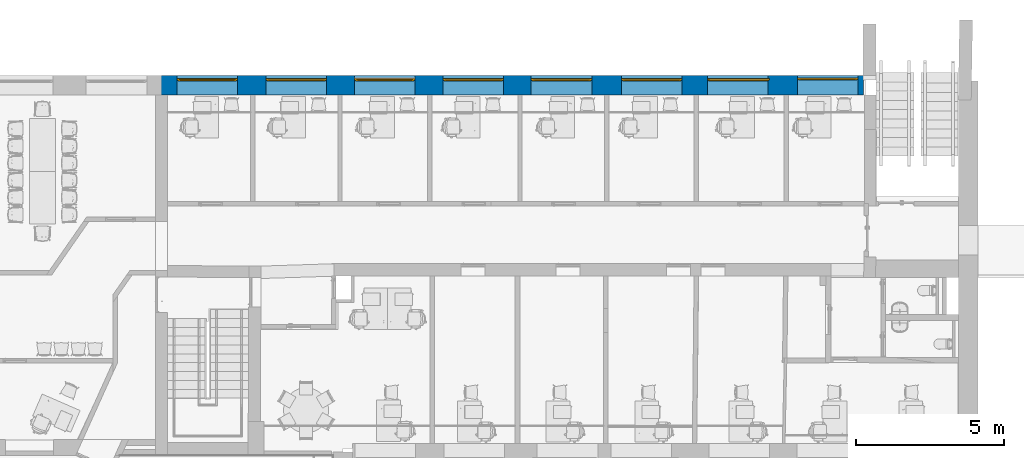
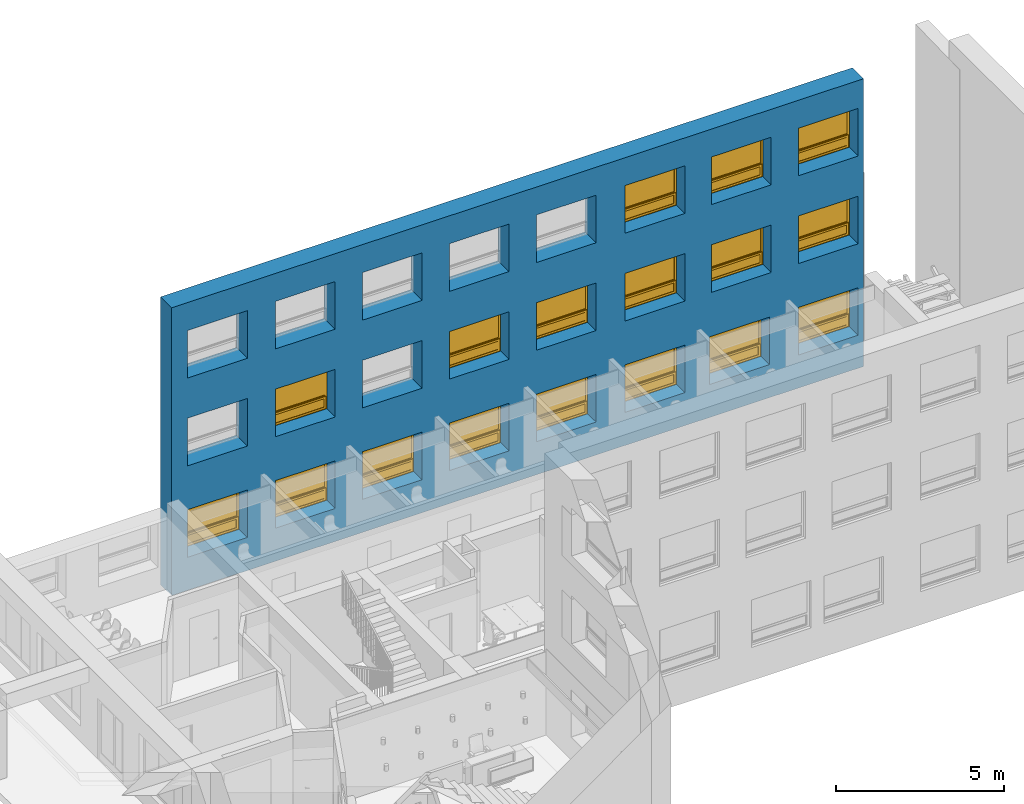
"""IFC2X3 building model written with IfcOpenShell, lengths in millimetres."""

from ifc_helpers import new_model, entity, si_unit, converted_unit, derived_unit, direction, frame, frame_2d, origin, place, context, subcontext, project, spatial, rectangle, extrude, faceted_brep, source, transform, mapped, material, material_list, layer, layer_set, layer_usage, type_object, type_shapes, element, fill, save


model = new_model("IFC2X3")

# Units and contexts
model_context = context("Model", 3, precision=0.01, world=origin(), true_north=direction((6.12303176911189e-17, 1.0)))
context_of_model = context(None, 3, precision=0.01, world=origin(), true_north=direction((6.12303176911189e-17, 1.0)))
body_context = subcontext(model_context, "Body", "Model", "MODEL_VIEW")
ifc_project = project(units=[si_unit("LENGTHUNIT", "METRE", prefix="MILLI"), si_unit("AREAUNIT", "SQUARE_METRE"), si_unit("VOLUMEUNIT", "CUBIC_METRE"), converted_unit("PLANEANGLEUNIT", "DEGREE", entity("IfcRatioMeasure", 0.0174532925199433), si_unit("PLANEANGLEUNIT", "RADIAN"), dimensions=[0, 0, 0, 0, 0, 0, 0]), si_unit("MASSUNIT", "GRAM", prefix="KILO"), derived_unit("MASSDENSITYUNIT", [(si_unit("MASSUNIT", "GRAM", prefix="KILO"), 1), (si_unit("LENGTHUNIT", "METRE"), -3)]), si_unit("TIMEUNIT", "SECOND"), si_unit("FREQUENCYUNIT", "HERTZ"), si_unit("THERMODYNAMICTEMPERATUREUNIT", "DEGREE_CELSIUS"), derived_unit("THERMALTRANSMITTANCEUNIT", [(si_unit("MASSUNIT", "GRAM", prefix="KILO"), 1), (si_unit("THERMODYNAMICTEMPERATUREUNIT", "KELVIN"), -1), (si_unit("TIMEUNIT", "SECOND"), -3)]), derived_unit("VOLUMETRICFLOWRATEUNIT", [(si_unit("LENGTHUNIT", "METRE"), 3), (si_unit("TIMEUNIT", "SECOND"), -1)]), si_unit("ELECTRICCURRENTUNIT", "AMPERE"), si_unit("ELECTRICVOLTAGEUNIT", "VOLT"), si_unit("POWERUNIT", "WATT"), si_unit("FORCEUNIT", "NEWTON", prefix="KILO"), si_unit("ILLUMINANCEUNIT", "LUX"), si_unit("LUMINOUSFLUXUNIT", "LUMEN"), si_unit("LUMINOUSINTENSITYUNIT", "CANDELA"), derived_unit("USERDEFINED", [(si_unit("MASSUNIT", "GRAM", prefix="KILO"), -1), (si_unit("LENGTHUNIT", "METRE"), -2), (si_unit("TIMEUNIT", "SECOND"), 3), (si_unit("LUMINOUSFLUXUNIT", "LUMEN"), 1)]), derived_unit("LINEARVELOCITYUNIT", [(si_unit("LENGTHUNIT", "METRE"), 1), (si_unit("TIMEUNIT", "SECOND"), -1)]), si_unit("PRESSUREUNIT", "PASCAL"), derived_unit("USERDEFINED", [(si_unit("LENGTHUNIT", "METRE"), -2), (si_unit("MASSUNIT", "GRAM", prefix="KILO"), 1), (si_unit("TIMEUNIT", "SECOND"), -2)])], contexts=[model_context, context_of_model])

# Site, building, storey
site_placement = place(None, frame((121442.264707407, 135347.995453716, -1800.0)))
site = spatial("IfcSite", under=ifc_project, at=site_placement, Name="Surface", CompositionType="ELEMENT")
building_placement = place(site_placement, origin())
building = spatial("IfcBuilding", under=site, at=building_placement, CompositionType="ELEMENT")
storey_1_placement = place(building_placement, frame((0.0, 0.0, 1800.0)))
storey_1 = spatial("IfcBuildingStorey", under=building, at=storey_1_placement, Name="1 korrus", CompositionType="ELEMENT", Elevation=1800.00000000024)

# Wall, openings, window
ifc_material_1 = material(Name="Plaster")
ifc_layer_1 = layer(ifc_material_1, 10.0)
ifc_material_2 = material(Name="Polystyrene")
ifc_layer_2 = layer(ifc_material_2, 150.0)
ifc_material_3 = material(Name="__Betoonelement")
ifc_layer_3 = layer(ifc_material_3, 500.0)
ifc_layer_set = layer_set([ifc_layer_1, ifc_layer_2, ifc_layer_3], Name="Basic Wall:Olemasolev Soojustatud Välissein")
ifc_layer_usage = layer_usage(ifc_layer_set, "AXIS2", "POSITIVE", -330.0)
wall_type = type_object("IfcWallType", Name="Basic Wall:Olemasolev Soojustatud Välissein", PredefinedType="STANDARD", material=ifc_layer_set)
wall_placement = place(storey_1_placement, frame((-85315.1914993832, -115011.919112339, -300.0), z_axis=(0.0, 0.0, 1.0), x_axis=(-1.0, 0.0, 0.0)))
wall = element("IfcWallStandardCase", 1, at=wall_placement, inside=storey_1, type_object=wall_type, material=ifc_layer_usage, Name="Basic Wall:Olemasolev Soojustatud Välissein", ObjectType="Basic Wall:Olemasolev Soojustatud Välissein", context=body_context, shape_type="SweptSolid", body=[
    extrude(rectangle(XDim=23782.0031187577, YDim=660.000000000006, at=frame_2d((12319.7873212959, -8.66862137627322e-12), x_axis=(-1.0, 0.0))), origin(), (0.0, 0.0, 1.0), 10460.0),
])
opening_1_placement = place(wall_placement, origin())
element("IfcOpeningElement", 2, at=opening_1_placement, cuts=wall, Name="Basic Wall:Olemasolev Soojustatud Välissein", ObjectType="Opening", context=body_context, shape_type="SweptSolid", body=[
    extrude(rectangle(XDim=1600.0, YDim=2050.0, at=frame_2d((-8.64019966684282e-12, 2.27373675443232e-13), x_axis=(0.0, 1.0))), frame((25702.8256414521, -1184.0, 2000.0), z_axis=(0.0, 1.0, 0.0), x_axis=(-1.0, 0.0, 0.0)), (0.0, 0.0, 1.0), 3048.0),
])
opening_2_placement = place(wall_placement, frame((23657.8256414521, 330.0, 1200.0)))
opening_2 = element("IfcOpeningElement", 3, at=opening_2_placement, cuts=wall, Name="sma_W2:A-1* 2050 x 1730mm Avatav:1", ObjectType="Opening", context=body_context, shape_type="SweptSolid", body=[
    extrude(rectangle(XDim=1730.0, YDim=2050.0, at=frame_2d((865.0, 1025.0), x_axis=(1.0, 0.0))), frame((0.0, 0.0, 0.0), z_axis=(0.0, -1.0, 0.0), x_axis=(0.0, 0.0, 1.0)), (0.0, 0.0, 1.0), 660.0),
])
opening_3_placement = place(wall_placement, frame((17649.9096963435, 330.0, 1200.0)))
opening_3 = element("IfcOpeningElement", 4, at=opening_3_placement, cuts=wall, Name="sma_W2:A-1* 2050 x 1730mm Avatav:1", ObjectType="Opening", context=body_context, shape_type="SweptSolid", body=[
    extrude(rectangle(XDim=1730.0, YDim=2050.0, at=frame_2d((865.0, 1025.0), x_axis=(1.0, 0.0))), frame((0.0, 0.0, 0.0), z_axis=(0.0, -1.0, 0.0), x_axis=(0.0, 0.0, 1.0)), (0.0, 0.0, 1.0), 660.0),
])
opening_4_placement = place(wall_placement, frame((20639.9096963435, 330.0, 1200.0)))
opening_4 = element("IfcOpeningElement", 5, at=opening_4_placement, cuts=wall, Name="sma_W2:A-1* 2050 x 1730mm Avatav:1", ObjectType="Opening", context=body_context, shape_type="SweptSolid", body=[
    extrude(rectangle(XDim=1730.0, YDim=2050.0, at=frame_2d((865.0, 1025.0), x_axis=(1.0, 0.0))), frame((0.0, 0.0, 0.0), z_axis=(0.0, -1.0, 0.0), x_axis=(0.0, 0.0, 1.0)), (0.0, 0.0, 1.0), 660.0),
])
opening_5_placement = place(wall_placement, frame((2659.90969634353, 330.0, 1200.0)))
opening_5 = element("IfcOpeningElement", 6, at=opening_5_placement, cuts=wall, Name="sma_W2:A-1* 2050 x 1730mm Avatav:1", ObjectType="Opening", context=body_context, shape_type="SweptSolid", body=[
    extrude(rectangle(XDim=1730.0, YDim=2050.0, at=frame_2d((865.0, 1025.0), x_axis=(1.0, 0.0))), frame((0.0, 0.0, 0.0), z_axis=(0.0, -1.0, 0.0), x_axis=(0.0, 0.0, 1.0)), (0.0, 0.0, 1.0), 660.0),
])
opening_6_placement = place(wall_placement, frame((5712.82564145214, 330.0, 1200.0)))
opening_6 = element("IfcOpeningElement", 7, at=opening_6_placement, cuts=wall, Name="sma_W2:A-1* 2050 x 1730mm Avatav:1", ObjectType="Opening", context=body_context, shape_type="SweptSolid", body=[
    extrude(rectangle(XDim=1730.0, YDim=2050.0, at=frame_2d((865.0, 1025.0), x_axis=(1.0, 0.0))), frame((0.0, 0.0, 0.0), z_axis=(0.0, -1.0, 0.0), x_axis=(0.0, 0.0, 1.0)), (0.0, 0.0, 1.0), 660.0),
])
opening_7_placement = place(wall_placement, frame((8619.90969634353, 330.0, 1200.0)))
opening_7 = element("IfcOpeningElement", 8, at=opening_7_placement, cuts=wall, Name="sma_W2:A-1* 2050 x 1730mm Avatav:1", ObjectType="Opening", context=body_context, shape_type="SweptSolid", body=[
    extrude(rectangle(XDim=1730.0, YDim=2050.0, at=frame_2d((865.0, 1025.0), x_axis=(1.0, 0.0))), frame((0.0, 0.0, 0.0), z_axis=(0.0, -1.0, 0.0), x_axis=(0.0, 0.0, 1.0)), (0.0, 0.0, 1.0), 660.0),
])
opening_8_placement = place(wall_placement, frame((11669.9096963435, 330.0, 1200.0)))
opening_8 = element("IfcOpeningElement", 9, at=opening_8_placement, cuts=wall, Name="sma_W2:A-1* 2050 x 1730mm Avatav:1", ObjectType="Opening", context=body_context, shape_type="SweptSolid", body=[
    extrude(rectangle(XDim=1730.0, YDim=2050.0, at=frame_2d((865.0, 1025.0), x_axis=(1.0, 0.0))), frame((0.0, 0.0, 0.0), z_axis=(0.0, -1.0, 0.0), x_axis=(0.0, 0.0, 1.0)), (0.0, 0.0, 1.0), 660.0),
])
opening_9_placement = place(wall_placement, frame((14659.9096963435, 330.0, 1200.0)))
opening_9 = element("IfcOpeningElement", 10, at=opening_9_placement, cuts=wall, Name="sma_W2:A-1* 2050 x 1730mm Avatav:1", ObjectType="Opening", context=body_context, shape_type="SweptSolid", body=[
    extrude(rectangle(XDim=1730.0, YDim=2050.0, at=frame_2d((865.0, 1025.0), x_axis=(1.0, 0.0))), frame((0.0, 0.0, 0.0), z_axis=(0.0, -1.0, 0.0), x_axis=(0.0, 0.0, 1.0)), (0.0, 0.0, 1.0), 660.0),
])
opening_10_placement = place(wall_placement, frame((2659.90969634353, 330.0, 4525.0)))
opening_10 = element("IfcOpeningElement", 11, at=opening_10_placement, cuts=wall, Name="sma_W2:A-1* 2050 x 1730mm Avatav:1", ObjectType="Opening", context=body_context, shape_type="SweptSolid", body=[
    extrude(rectangle(XDim=1730.0, YDim=2050.0, at=frame_2d((865.0, 1025.0), x_axis=(1.0, 0.0))), frame((0.0, 0.0, 0.0), z_axis=(0.0, -1.0, 0.0), x_axis=(0.0, 0.0, 1.0)), (0.0, 0.0, 1.0), 660.0),
])
opening_11_placement = place(wall_placement, frame((5649.90969634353, 330.0, 4525.0)))
opening_11 = element("IfcOpeningElement", 12, at=opening_11_placement, cuts=wall, Name="sma_W2:A-1* 2050 x 1730mm Avatav:1", ObjectType="Opening", context=body_context, shape_type="SweptSolid", body=[
    extrude(rectangle(XDim=1730.0, YDim=2050.0, at=frame_2d((865.0, 1025.0), x_axis=(1.0, 0.0))), frame((0.0, 0.0, 0.0), z_axis=(0.0, -1.0, 0.0), x_axis=(0.0, 0.0, 1.0)), (0.0, 0.0, 1.0), 660.0),
])
opening_12_placement = place(wall_placement, frame((8619.90969634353, 330.0, 4525.0)))
opening_12 = element("IfcOpeningElement", 13, at=opening_12_placement, cuts=wall, Name="sma_W2:A-1* 2050 x 1730mm Avatav:1", ObjectType="Opening", context=body_context, shape_type="SweptSolid", body=[
    extrude(rectangle(XDim=1730.0, YDim=2050.0, at=frame_2d((865.0, 1025.0), x_axis=(1.0, 0.0))), frame((0.0, 0.0, 0.0), z_axis=(0.0, -1.0, 0.0), x_axis=(0.0, 0.0, 1.0)), (0.0, 0.0, 1.0), 660.0),
])
opening_13_placement = place(wall_placement, frame((11669.9096963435, 330.0, 4525.0)))
opening_13 = element("IfcOpeningElement", 14, at=opening_13_placement, cuts=wall, Name="sma_W2:A-1* 2050 x 1730mm Avatav:1", ObjectType="Opening", context=body_context, shape_type="SweptSolid", body=[
    extrude(rectangle(XDim=1730.0, YDim=2050.0, at=frame_2d((865.0, 1025.0), x_axis=(1.0, 0.0))), frame((0.0, 0.0, 0.0), z_axis=(0.0, -1.0, 0.0), x_axis=(0.0, 0.0, 1.0)), (0.0, 0.0, 1.0), 660.0),
])
opening_14_placement = place(wall_placement, frame((14659.9096963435, 330.0, 4525.0)))
opening_14 = element("IfcOpeningElement", 15, at=opening_14_placement, cuts=wall, Name="sma_W2:A-1* 2050 x 1730mm Avatav:1", ObjectType="Opening", context=body_context, shape_type="SweptSolid", body=[
    extrude(rectangle(XDim=1730.0, YDim=2050.0, at=frame_2d((865.0, 1025.0), x_axis=(1.0, 0.0))), frame((0.0, 0.0, 0.0), z_axis=(0.0, -1.0, 0.0), x_axis=(0.0, 0.0, 1.0)), (0.0, 0.0, 1.0), 660.0),
])
opening_15_placement = place(wall_placement, frame((17649.9096963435, 330.0, 4525.0)))
element("IfcOpeningElement", 16, at=opening_15_placement, cuts=wall, Name="sma_W2:A-1* 2050 x 1730mm Avatav:1", ObjectType="Opening", context=body_context, shape_type="SweptSolid", body=[
    extrude(rectangle(XDim=1730.0, YDim=2050.0, at=frame_2d((865.0, 1025.0), x_axis=(1.0, 0.0))), frame((0.0, 0.0, 0.0), z_axis=(0.0, -1.0, 0.0), x_axis=(0.0, 0.0, 1.0)), (0.0, 0.0, 1.0), 660.0),
])
opening_16_placement = place(wall_placement, frame((20639.9096963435, 330.0, 4525.0)))
opening_16 = element("IfcOpeningElement", 17, at=opening_16_placement, cuts=wall, Name="sma_W2:A-1* 2050 x 1730mm Avatav:1", ObjectType="Opening", context=body_context, shape_type="SweptSolid", body=[
    extrude(rectangle(XDim=1730.0, YDim=2050.0, at=frame_2d((865.0, 1025.0), x_axis=(1.0, 0.0))), frame((0.0, 0.0, 0.0), z_axis=(0.0, -1.0, 0.0), x_axis=(0.0, 0.0, 1.0)), (0.0, 0.0, 1.0), 660.0),
])
opening_17_placement = place(wall_placement, frame((2659.90969634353, 330.0, 7715.0)))
opening_17 = element("IfcOpeningElement", 18, at=opening_17_placement, cuts=wall, Name="sma_W2:A-1* 2050 x 1730mm Avatav:1", ObjectType="Opening", context=body_context, shape_type="SweptSolid", body=[
    extrude(rectangle(XDim=1730.0, YDim=2050.0, at=frame_2d((865.0, 1025.0), x_axis=(1.0, 0.0))), frame((0.0, 0.0, 0.0), z_axis=(0.0, -1.0, 0.0), x_axis=(0.0, 0.0, 1.0)), (0.0, 0.0, 1.0), 660.0),
])
opening_18_placement = place(wall_placement, frame((5649.90969634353, 330.0, 7715.0)))
opening_18 = element("IfcOpeningElement", 19, at=opening_18_placement, cuts=wall, Name="sma_W2:A-1* 2050 x 1730mm Avatav:1", ObjectType="Opening", context=body_context, shape_type="SweptSolid", body=[
    extrude(rectangle(XDim=1730.0, YDim=2050.0, at=frame_2d((865.0, 1025.0), x_axis=(1.0, 0.0))), frame((0.0, 0.0, 0.0), z_axis=(0.0, -1.0, 0.0), x_axis=(0.0, 0.0, 1.0)), (0.0, 0.0, 1.0), 660.0),
])
opening_19_placement = place(wall_placement, frame((8619.90969634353, 330.0, 7715.0)))
opening_19 = element("IfcOpeningElement", 20, at=opening_19_placement, cuts=wall, Name="sma_W2:A-1* 2050 x 1730mm Avatav:1", ObjectType="Opening", context=body_context, shape_type="SweptSolid", body=[
    extrude(rectangle(XDim=1730.0, YDim=2050.0, at=frame_2d((865.0, 1025.0), x_axis=(1.0, 0.0))), frame((0.0, 0.0, 0.0), z_axis=(0.0, -1.0, 0.0), x_axis=(0.0, 0.0, 1.0)), (0.0, 0.0, 1.0), 660.0),
])
opening_20_placement = place(wall_placement, frame((11669.9096963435, 330.0, 7715.0)))
element("IfcOpeningElement", 21, at=opening_20_placement, cuts=wall, Name="sma_W2:A-1* 2050 x 1730mm Avatav:1", ObjectType="Opening", context=body_context, shape_type="SweptSolid", body=[
    extrude(rectangle(XDim=1730.0, YDim=2050.0, at=frame_2d((865.0, 1025.0), x_axis=(1.0, 0.0))), frame((0.0, 0.0, 0.0), z_axis=(0.0, -1.0, 0.0), x_axis=(0.0, 0.0, 1.0)), (0.0, 0.0, 1.0), 660.0),
])
opening_21_placement = place(wall_placement, frame((14659.9096963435, 330.0, 7715.0)))
element("IfcOpeningElement", 22, at=opening_21_placement, cuts=wall, Name="sma_W2:A-1* 2050 x 1730mm Avatav:1", ObjectType="Opening", context=body_context, shape_type="SweptSolid", body=[
    extrude(rectangle(XDim=1730.0, YDim=2050.0, at=frame_2d((865.0, 1025.0), x_axis=(1.0, 0.0))), frame((0.0, 0.0, 0.0), z_axis=(0.0, -1.0, 0.0), x_axis=(0.0, 0.0, 1.0)), (0.0, 0.0, 1.0), 660.0),
])
opening_22_placement = place(wall_placement, frame((17649.9096963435, 330.0, 7715.0)))
element("IfcOpeningElement", 23, at=opening_22_placement, cuts=wall, Name="sma_W2:A-1* 2050 x 1730mm Avatav:1", ObjectType="Opening", context=body_context, shape_type="SweptSolid", body=[
    extrude(rectangle(XDim=1730.0, YDim=2050.0, at=frame_2d((865.0, 1025.0), x_axis=(1.0, 0.0))), frame((0.0, 0.0, 0.0), z_axis=(0.0, -1.0, 0.0), x_axis=(0.0, 0.0, 1.0)), (0.0, 0.0, 1.0), 660.0),
])
opening_23_placement = place(wall_placement, frame((20639.9096963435, 330.0, 7715.0)))
element("IfcOpeningElement", 24, at=opening_23_placement, cuts=wall, Name="sma_W2:A-1* 2050 x 1730mm Avatav:1", ObjectType="Opening", context=body_context, shape_type="SweptSolid", body=[
    extrude(rectangle(XDim=1730.0, YDim=2050.0, at=frame_2d((865.0, 1025.0), x_axis=(1.0, 0.0))), frame((0.0, 0.0, 0.0), z_axis=(0.0, -1.0, 0.0), x_axis=(0.0, 0.0, 1.0)), (0.0, 0.0, 1.0), 660.0),
])
opening_24_placement = place(wall_placement, frame((23657.8256414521, 330.0, 4525.0)))
element("IfcOpeningElement", 25, at=opening_24_placement, cuts=wall, Name="sma_W2:A-1* 2050 x 1730mm Avatav:1", ObjectType="Opening", context=body_context, shape_type="SweptSolid", body=[
    extrude(rectangle(XDim=1730.0, YDim=2050.0, at=frame_2d((865.0, 1025.0), x_axis=(1.0, 0.0))), frame((0.0, 0.0, 0.0), z_axis=(0.0, -1.0, 0.0), x_axis=(0.0, 0.0, 1.0)), (0.0, 0.0, 1.0), 660.0),
])
opening_25_placement = place(wall_placement, frame((23657.8256414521, 330.0, 7715.0)))
element("IfcOpeningElement", 26, at=opening_25_placement, cuts=wall, Name="sma_W2:A-1* 2050 x 1730mm Avatav:1", ObjectType="Opening", context=body_context, shape_type="SweptSolid", body=[
    extrude(rectangle(XDim=1730.0, YDim=2050.0, at=frame_2d((865.0, 1025.0), x_axis=(1.0, 0.0))), frame((0.0, 0.0, 0.0), z_axis=(0.0, -1.0, 0.0), x_axis=(0.0, 0.0, 1.0)), (0.0, 0.0, 1.0), 660.0),
])
ifc_material_4 = material(Name="PVC")
ifc_material_5 = material(Name="Glass")
ifc_material_list_1 = material_list([ifc_material_4, ifc_material_5])
ifc_material_list_2 = material_list([ifc_material_4, ifc_material_5])
window_style_1 = type_object("IfcWindowStyle", Name="A-1* 2050 x 1730mm Avatav", ConstructionType="OTHER_CONSTRUCTION", OperationType="NOTDEFINED", ParameterTakesPrecedence=False, Sizeable=False, material=ifc_material_list_2)
shared_shape_1 = source(origin(), body_context, "Body", "Brep", [
    faceted_brep([(2050.0, 529.682466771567, 0.0), (2050.0, 529.682466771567, 1730.0), (0.0, 529.682466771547, 1730.0), (0.0, 529.682466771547, 0.0), (2015.0, 529.682466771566, 35.0), (35.0, 529.682466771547, 35.0), (35.0, 529.682466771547, 480.0), (2015.0, 529.682466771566, 480.0), (70.0, 529.682466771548, 515.0), (70.0, 529.682466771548, 1660.0), (1980.0, 529.682466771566, 1660.0), (1980.0, 529.682466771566, 515.0), (0.0, 579.682466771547, 0.0), (2050.0, 579.682466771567, 0.0), (0.0, 579.682466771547, 1730.0), (2050.0, 579.682466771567, 1730.0), (2015.0, 554.682466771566, 35.0), (2015.0, 554.682466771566, 480.0), (35.0, 554.682466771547, 480.0), (35.0, 554.682466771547, 35.0), (1980.0, 579.682466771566, 70.0), (1980.0, 579.682466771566, 445.0), (70.0, 579.682466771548, 445.0), (70.0, 579.682466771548, 70.0), (70.0, 579.682466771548, 515.0), (1980.0, 579.682466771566, 515.0), (1980.0, 579.682466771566, 1660.0), (70.0, 579.682466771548, 1660.0), (70.0, 554.682466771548, 70.0), (1980.0, 554.682466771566, 70.0), (70.0, 554.682466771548, 445.0), (1980.0, 554.682466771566, 445.0)], [[[0, 1, 2, 3], [4, 5, 6, 7], [8, 9, 10, 11]], [[3, 12, 13, 0]], [[2, 14, 12, 3]], [[0, 13, 15, 1]], [[16, 4, 7, 17]], [[17, 7, 6, 18]], [[18, 6, 5, 19]], [[19, 5, 4, 16]], [[13, 12, 14, 15], [20, 21, 22, 23], [24, 25, 26, 27]], [[23, 28, 29, 20]], [[22, 30, 28, 23]], [[21, 31, 30, 22]], [[20, 29, 31, 21]], [[17, 18, 19, 16], [29, 28, 30, 31]], [[1, 15, 14, 2]], [[10, 26, 25, 11]], [[9, 27, 26, 10]], [[8, 24, 27, 9]], [[11, 25, 24, 8]]]),
    faceted_brep([(1945.0, 519.682466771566, 105.0), (1945.0, 519.682466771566, 410.0), (105.0, 519.682466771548, 410.0), (105.0, 519.682466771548, 105.0), (1945.0, 539.682466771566, 105.0), (105.0, 539.682466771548, 105.0), (105.0, 539.682466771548, 410.0), (1945.0, 539.682466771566, 410.0)], [[[0, 1, 2, 3]], [[4, 5, 6, 7]], [[3, 5, 4, 0]], [[2, 6, 5, 3]], [[1, 7, 6, 2]], [[0, 4, 7, 1]]]),
    faceted_brep([(2015.0, 504.682466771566, 35.0), (2015.0, 504.682466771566, 480.0), (35.0, 504.682466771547, 480.0), (35.0, 504.682466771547, 35.0), (1945.0, 504.682466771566, 105.0), (105.0, 504.682466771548, 105.0), (105.0, 504.682466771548, 410.0), (1945.0, 504.682466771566, 410.0), (2015.0, 554.682466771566, 35.0), (35.0, 554.682466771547, 35.0), (35.0, 554.682466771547, 480.0), (2015.0, 554.682466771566, 480.0), (1945.0, 554.682466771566, 105.0), (1945.0, 554.682466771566, 410.0), (105.0, 554.682466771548, 410.0), (105.0, 554.682466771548, 105.0)], [[[0, 1, 2, 3], [4, 5, 6, 7]], [[8, 9, 10, 11], [12, 13, 14, 15]], [[3, 9, 8, 0]], [[2, 10, 9, 3]], [[1, 11, 10, 2]], [[0, 8, 11, 1]], [[7, 13, 12, 4]], [[6, 14, 13, 7]], [[5, 15, 14, 6]], [[4, 12, 15, 5]]]),
    faceted_brep([(1980.0, 544.682466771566, 515.0), (1980.0, 544.682466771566, 1660.0), (70.0, 544.682466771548, 1660.0), (70.0, 544.682466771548, 515.0), (70.0, 564.682466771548, 1660.0), (70.0, 564.682466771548, 515.0), (1980.0, 564.682466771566, 1660.0), (1980.0, 564.682466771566, 515.0)], [[[0, 1, 2, 3]], [[2, 4, 5, 3]], [[1, 6, 4, 2]], [[0, 7, 6, 1]], [[7, 5, 4, 6]], [[3, 5, 7, 0]]]),
])
type_shapes(window_style_1, [shared_shape_1])
window_1_placement = place(opening_5_placement, frame((0.0, 0.0, 0.0), z_axis=(0.0, 0.0, 1.0), x_axis=(-1.0, 0.0, 0.0)))
window_1 = element("IfcWindow", 27, at=window_1_placement, inside=storey_1, type_object=window_style_1, material=ifc_material_list_1, Name="sma_W2:A-1* 2050 x 1730mm Avatav", ObjectType="A-1* 2050 x 1730mm Avatav", OverallHeight=1730.0, OverallWidth=2050.0, context=body_context, shape_type="MappedRepresentation", body=[
    mapped(shared_shape_1, transform((0.0, 0.0, 0.0), scale=1.0)),
])
fill(opening_5, window_1)

# Storey
storey_2_placement = place(building_placement, frame((0.0, 0.0, 5125.0)))
storey_2 = spatial("IfcBuildingStorey", under=building, at=storey_2_placement, Name="2 korrus", CompositionType="ELEMENT", Elevation=5125.00000000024)

# Window
ifc_material_list_3 = material_list([ifc_material_4, ifc_material_5])
window_2_placement = place(opening_10_placement, frame((0.0, 0.0, 0.0), z_axis=(0.0, 0.0, 1.0), x_axis=(-1.0, 0.0, 0.0)))
window_2 = element("IfcWindow", 28, at=window_2_placement, inside=storey_2, type_object=window_style_1, material=ifc_material_list_3, Name="sma_W2:A-1* 2050 x 1730mm Avatav", ObjectType="A-1* 2050 x 1730mm Avatav", OverallHeight=1730.0, OverallWidth=2050.0, context=body_context, shape_type="MappedRepresentation", body=[
    mapped(shared_shape_1, transform((0.0, 0.0, 0.0), scale=1.0)),
])

fill(opening_10, window_2)

# Storey
storey_3_placement = place(building_placement, frame((0.0, 0.0, 8315.0)))
storey_3 = spatial("IfcBuildingStorey", under=building, at=storey_3_placement, Name="3 korrus", CompositionType="ELEMENT", Elevation=8315.00000000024)

# Window
ifc_material_list_4 = material_list([ifc_material_4, ifc_material_5])
window_3_placement = place(opening_17_placement, frame((0.0, 0.0, 0.0), z_axis=(0.0, 0.0, 1.0), x_axis=(-1.0, 0.0, 0.0)))
window_3 = element("IfcWindow", 29, at=window_3_placement, inside=storey_3, type_object=window_style_1, material=ifc_material_list_4, Name="sma_W2:A-1* 2050 x 1730mm Avatav", ObjectType="A-1* 2050 x 1730mm Avatav", OverallHeight=1730.0, OverallWidth=2050.0, context=body_context, shape_type="MappedRepresentation", body=[
    mapped(shared_shape_1, transform((0.0, 0.0, 0.0), scale=1.0)),
])

fill(opening_17, window_3)

ifc_material_list_5 = material_list([ifc_material_4, ifc_material_5])
ifc_material_list_6 = material_list([ifc_material_4, ifc_material_5])
window_style_2 = type_object("IfcWindowStyle", Name="A-1* 2050 x 1730mm Avatav", ConstructionType="OTHER_CONSTRUCTION", OperationType="NOTDEFINED", ParameterTakesPrecedence=False, Sizeable=False, material=ifc_material_list_6)
shared_shape_2 = source(origin(), body_context, "Body", "Brep", [
    faceted_brep([(0.0, 499.759876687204, 0.0), (2050.0, 499.759876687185, 0.0), (2050.0, 499.759876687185, 1730.0), (0.0, 499.759876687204, 1730.0), (35.0, 499.759876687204, 35.0), (35.0, 499.759876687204, 480.0), (2015.0, 499.759876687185, 480.0), (2015.0, 499.759876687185, 35.0), (1980.0, 499.759876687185, 515.0), (70.0, 499.759876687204, 515.0), (70.0, 499.759876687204, 1660.0), (1980.0, 499.759876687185, 1660.0), (0.0, 549.759876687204, 0.0), (2050.0, 549.759876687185, 0.0), (2050.0, 549.759876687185, 1730.0), (0.0, 549.759876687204, 1730.0), (35.0, 524.759876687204, 35.0), (35.0, 524.759876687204, 480.0), (2015.0, 524.759876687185, 480.0), (2015.0, 524.759876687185, 35.0), (70.0, 549.759876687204, 70.0), (1980.0, 549.759876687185, 70.0), (1980.0, 549.759876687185, 445.0), (70.0, 549.759876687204, 445.0), (1980.0, 549.759876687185, 515.0), (1980.0, 549.759876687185, 1660.0), (70.0, 549.759876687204, 1660.0), (70.0, 549.759876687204, 515.0), (70.0, 524.759876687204, 70.0), (1980.0, 524.759876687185, 70.0), (1980.0, 524.759876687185, 445.0), (70.0, 524.759876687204, 445.0)], [[[0, 1, 2, 3], [4, 5, 6, 7], [8, 9, 10, 11]], [[1, 0, 12, 13]], [[2, 1, 13, 14]], [[0, 3, 15, 12]], [[16, 17, 5, 4]], [[17, 18, 6, 5]], [[18, 19, 7, 6]], [[19, 16, 4, 7]], [[12, 15, 14, 13], [20, 21, 22, 23], [24, 25, 26, 27]], [[21, 20, 28, 29]], [[22, 21, 29, 30]], [[23, 22, 30, 31]], [[20, 23, 31, 28]], [[17, 16, 19, 18], [28, 31, 30, 29]], [[3, 2, 14, 15]], [[10, 9, 27, 26]], [[11, 10, 26, 25]], [[8, 11, 25, 24]], [[9, 8, 24, 27]]]),
    faceted_brep([(105.0, 489.759876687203, 105.0), (1945.0, 489.759876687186, 105.0), (1945.0, 489.759876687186, 410.0), (105.0, 489.759876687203, 410.0), (105.0, 509.759876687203, 105.0), (105.0, 509.759876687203, 410.0), (1945.0, 509.759876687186, 410.0), (1945.0, 509.759876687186, 105.0)], [[[0, 1, 2, 3]], [[4, 5, 6, 7]], [[1, 0, 4, 7]], [[2, 1, 7, 6]], [[3, 2, 6, 5]], [[0, 3, 5, 4]]]),
    faceted_brep([(35.0, 474.759876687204, 35.0), (2015.0, 474.759876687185, 35.0), (2015.0, 474.759876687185, 480.0), (35.0, 474.759876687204, 480.0), (105.0, 474.759876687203, 105.0), (105.0, 474.759876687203, 410.0), (1945.0, 474.759876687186, 410.0), (1945.0, 474.759876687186, 105.0), (35.0, 524.759876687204, 35.0), (35.0, 524.759876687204, 480.0), (2015.0, 524.759876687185, 480.0), (2015.0, 524.759876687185, 35.0), (105.0, 524.759876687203, 105.0), (1945.0, 524.759876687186, 105.0), (1945.0, 524.759876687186, 410.0), (105.0, 524.759876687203, 410.0)], [[[0, 1, 2, 3], [4, 5, 6, 7]], [[8, 9, 10, 11], [12, 13, 14, 15]], [[1, 0, 8, 11]], [[2, 1, 11, 10]], [[3, 2, 10, 9]], [[0, 3, 9, 8]], [[5, 4, 12, 15]], [[6, 5, 15, 14]], [[7, 6, 14, 13]], [[4, 7, 13, 12]]]),
    faceted_brep([(70.0, 514.759876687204, 515.0), (1980.0, 514.759876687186, 515.0), (1980.0, 514.759876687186, 1660.0), (70.0, 514.759876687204, 1660.0), (1980.0, 534.759876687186, 515.0), (1980.0, 534.759876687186, 1660.0), (70.0, 534.759876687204, 1660.0), (70.0, 534.759876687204, 515.0)], [[[0, 1, 2, 3]], [[2, 1, 4, 5]], [[3, 2, 5, 6]], [[0, 3, 6, 7]], [[7, 6, 5, 4]], [[1, 0, 7, 4]]]),
])
type_shapes(window_style_2, [shared_shape_2])
window_4_placement = place(opening_6_placement, frame((0.0, 0.0, 0.0), z_axis=(0.0, 0.0, 1.0), x_axis=(-1.0, 0.0, 0.0)))
window_4 = element("IfcWindow", 30, at=window_4_placement, inside=storey_1, type_object=window_style_2, material=ifc_material_list_5, Name="sma_W2:A-1* 2050 x 1730mm Avatav", ObjectType="A-1* 2050 x 1730mm Avatav", OverallHeight=1730.0, OverallWidth=2050.0, context=body_context, shape_type="MappedRepresentation", body=[
    mapped(shared_shape_2, transform((0.0, 0.0, 0.0), scale=1.0)),
])

fill(opening_6, window_4)

ifc_material_list_7 = material_list([ifc_material_4, ifc_material_5])
window_5_placement = place(opening_7_placement, frame((0.0, 0.0, 0.0), z_axis=(0.0, 0.0, 1.0), x_axis=(-1.0, 0.0, 0.0)))
window_5 = element("IfcWindow", 31, at=window_5_placement, inside=storey_1, type_object=window_style_2, material=ifc_material_list_7, Name="sma_W2:A-1* 2050 x 1730mm Avatav", ObjectType="A-1* 2050 x 1730mm Avatav", OverallHeight=1730.0, OverallWidth=2050.0, context=body_context, shape_type="MappedRepresentation", body=[
    mapped(shared_shape_2, transform((0.0, 0.0, 0.0), scale=1.0)),
])

fill(opening_7, window_5)

ifc_material_list_8 = material_list([ifc_material_4, ifc_material_5])
window_6_placement = place(opening_8_placement, frame((0.0, 0.0, 0.0), z_axis=(0.0, 0.0, 1.0), x_axis=(-1.0, 0.0, 0.0)))
window_6 = element("IfcWindow", 32, at=window_6_placement, inside=storey_1, type_object=window_style_2, material=ifc_material_list_8, Name="sma_W2:A-1* 2050 x 1730mm Avatav", ObjectType="A-1* 2050 x 1730mm Avatav", OverallHeight=1730.0, OverallWidth=2050.0, context=body_context, shape_type="MappedRepresentation", body=[
    mapped(shared_shape_2, transform((0.0, 0.0, 0.0), scale=1.0)),
])

fill(opening_8, window_6)

ifc_material_list_9 = material_list([ifc_material_4, ifc_material_5])
window_7_placement = place(opening_9_placement, frame((0.0, 0.0, 0.0), z_axis=(0.0, 0.0, 1.0), x_axis=(-1.0, 0.0, 0.0)))
window_7 = element("IfcWindow", 33, at=window_7_placement, inside=storey_1, type_object=window_style_2, material=ifc_material_list_9, Name="sma_W2:A-1* 2050 x 1730mm Avatav", ObjectType="A-1* 2050 x 1730mm Avatav", OverallHeight=1730.0, OverallWidth=2050.0, context=body_context, shape_type="MappedRepresentation", body=[
    mapped(shared_shape_2, transform((0.0, 0.0, 0.0), scale=1.0)),
])

fill(opening_9, window_7)

ifc_material_list_10 = material_list([ifc_material_4, ifc_material_5])
window_8_placement = place(opening_3_placement, frame((0.0, 0.0, 0.0), z_axis=(0.0, 0.0, 1.0), x_axis=(-1.0, 0.0, 0.0)))
window_8 = element("IfcWindow", 34, at=window_8_placement, inside=storey_1, type_object=window_style_2, material=ifc_material_list_10, Name="sma_W2:A-1* 2050 x 1730mm Avatav", ObjectType="A-1* 2050 x 1730mm Avatav", OverallHeight=1730.0, OverallWidth=2050.0, context=body_context, shape_type="MappedRepresentation", body=[
    mapped(shared_shape_2, transform((0.0, 0.0, 0.0), scale=1.0)),
])

fill(opening_3, window_8)

ifc_material_list_11 = material_list([ifc_material_4, ifc_material_5])
window_9_placement = place(opening_4_placement, frame((0.0, 0.0, 0.0), z_axis=(0.0, 0.0, 1.0), x_axis=(-1.0, 0.0, 0.0)))
window_9 = element("IfcWindow", 35, at=window_9_placement, inside=storey_1, type_object=window_style_2, material=ifc_material_list_11, Name="sma_W2:A-1* 2050 x 1730mm Avatav", ObjectType="A-1* 2050 x 1730mm Avatav", OverallHeight=1730.0, OverallWidth=2050.0, context=body_context, shape_type="MappedRepresentation", body=[
    mapped(shared_shape_2, transform((0.0, 0.0, 0.0), scale=1.0)),
])

fill(opening_4, window_9)

ifc_material_list_12 = material_list([ifc_material_4, ifc_material_5])
window_10_placement = place(opening_2_placement, frame((0.0, 0.0, 0.0), z_axis=(0.0, 0.0, 1.0), x_axis=(-1.0, 0.0, 0.0)))
window_10 = element("IfcWindow", 36, at=window_10_placement, inside=storey_1, type_object=window_style_2, material=ifc_material_list_12, Name="sma_W2:A-1* 2050 x 1730mm Avatav", ObjectType="A-1* 2050 x 1730mm Avatav", OverallHeight=1730.0, OverallWidth=2050.0, context=body_context, shape_type="MappedRepresentation", body=[
    mapped(shared_shape_2, transform((0.0, 0.0, 0.0), scale=1.0)),
])

fill(opening_2, window_10)

ifc_material_list_13 = material_list([ifc_material_4, ifc_material_5])
window_11_placement = place(opening_11_placement, frame((0.0, 0.0, 0.0), z_axis=(0.0, 0.0, 1.0), x_axis=(-1.0, 0.0, 0.0)))
window_11 = element("IfcWindow", 37, at=window_11_placement, inside=storey_2, type_object=window_style_2, material=ifc_material_list_13, Name="sma_W2:A-1* 2050 x 1730mm Avatav", ObjectType="A-1* 2050 x 1730mm Avatav", OverallHeight=1730.0, OverallWidth=2050.0, context=body_context, shape_type="MappedRepresentation", body=[
    mapped(shared_shape_2, transform((0.0, 0.0, 0.0), scale=1.0)),
])

fill(opening_11, window_11)

ifc_material_list_14 = material_list([ifc_material_4, ifc_material_5])
window_12_placement = place(opening_12_placement, frame((0.0, 0.0, 0.0), z_axis=(0.0, 0.0, 1.0), x_axis=(-1.0, 0.0, 0.0)))
window_12 = element("IfcWindow", 38, at=window_12_placement, inside=storey_2, type_object=window_style_2, material=ifc_material_list_14, Name="sma_W2:A-1* 2050 x 1730mm Avatav", ObjectType="A-1* 2050 x 1730mm Avatav", OverallHeight=1730.0, OverallWidth=2050.0, context=body_context, shape_type="MappedRepresentation", body=[
    mapped(shared_shape_2, transform((0.0, 0.0, 0.0), scale=1.0)),
])

fill(opening_12, window_12)

ifc_material_list_15 = material_list([ifc_material_4, ifc_material_5])
window_13_placement = place(opening_13_placement, frame((0.0, 0.0, 0.0), z_axis=(0.0, 0.0, 1.0), x_axis=(-1.0, 0.0, 0.0)))
window_13 = element("IfcWindow", 39, at=window_13_placement, inside=storey_2, type_object=window_style_2, material=ifc_material_list_15, Name="sma_W2:A-1* 2050 x 1730mm Avatav", ObjectType="A-1* 2050 x 1730mm Avatav", OverallHeight=1730.0, OverallWidth=2050.0, context=body_context, shape_type="MappedRepresentation", body=[
    mapped(shared_shape_2, transform((0.0, 0.0, 0.0), scale=1.0)),
])

fill(opening_13, window_13)

ifc_material_list_16 = material_list([ifc_material_4, ifc_material_5])
window_14_placement = place(opening_14_placement, frame((0.0, 0.0, 0.0), z_axis=(0.0, 0.0, 1.0), x_axis=(-1.0, 0.0, 0.0)))
window_14 = element("IfcWindow", 40, at=window_14_placement, inside=storey_2, type_object=window_style_2, material=ifc_material_list_16, Name="sma_W2:A-1* 2050 x 1730mm Avatav", ObjectType="A-1* 2050 x 1730mm Avatav", OverallHeight=1730.0, OverallWidth=2050.0, context=body_context, shape_type="MappedRepresentation", body=[
    mapped(shared_shape_2, transform((0.0, 0.0, 0.0), scale=1.0)),
])

fill(opening_14, window_14)

ifc_material_list_17 = material_list([ifc_material_4, ifc_material_5])
window_15_placement = place(opening_16_placement, frame((0.0, 0.0, 0.0), z_axis=(0.0, 0.0, 1.0), x_axis=(-1.0, 0.0, 0.0)))
window_15 = element("IfcWindow", 41, at=window_15_placement, inside=storey_2, type_object=window_style_2, material=ifc_material_list_17, Name="sma_W2:A-1* 2050 x 1730mm Avatav", ObjectType="A-1* 2050 x 1730mm Avatav", OverallHeight=1730.0, OverallWidth=2050.0, context=body_context, shape_type="MappedRepresentation", body=[
    mapped(shared_shape_2, transform((0.0, 0.0, 0.0), scale=1.0)),
])

fill(opening_16, window_15)

ifc_material_list_18 = material_list([ifc_material_4, ifc_material_5])
window_16_placement = place(opening_18_placement, frame((0.0, 0.0, 0.0), z_axis=(0.0, 0.0, 1.0), x_axis=(-1.0, 0.0, 0.0)))
window_16 = element("IfcWindow", 42, at=window_16_placement, inside=storey_3, type_object=window_style_2, material=ifc_material_list_18, Name="sma_W2:A-1* 2050 x 1730mm Avatav", ObjectType="A-1* 2050 x 1730mm Avatav", OverallHeight=1730.0, OverallWidth=2050.0, context=body_context, shape_type="MappedRepresentation", body=[
    mapped(shared_shape_2, transform((0.0, 0.0, 0.0), scale=1.0)),
])

fill(opening_18, window_16)

ifc_material_list_19 = material_list([ifc_material_4, ifc_material_5])
window_17_placement = place(opening_19_placement, frame((0.0, 0.0, 0.0), z_axis=(0.0, 0.0, 1.0), x_axis=(-1.0, 0.0, 0.0)))
window_17 = element("IfcWindow", 43, at=window_17_placement, inside=storey_3, type_object=window_style_2, material=ifc_material_list_19, Name="sma_W2:A-1* 2050 x 1730mm Avatav", ObjectType="A-1* 2050 x 1730mm Avatav", OverallHeight=1730.0, OverallWidth=2050.0, context=body_context, shape_type="MappedRepresentation", body=[
    mapped(shared_shape_2, transform((0.0, 0.0, 0.0), scale=1.0)),
])

fill(opening_19, window_17)

save(model, "model.ifc")
